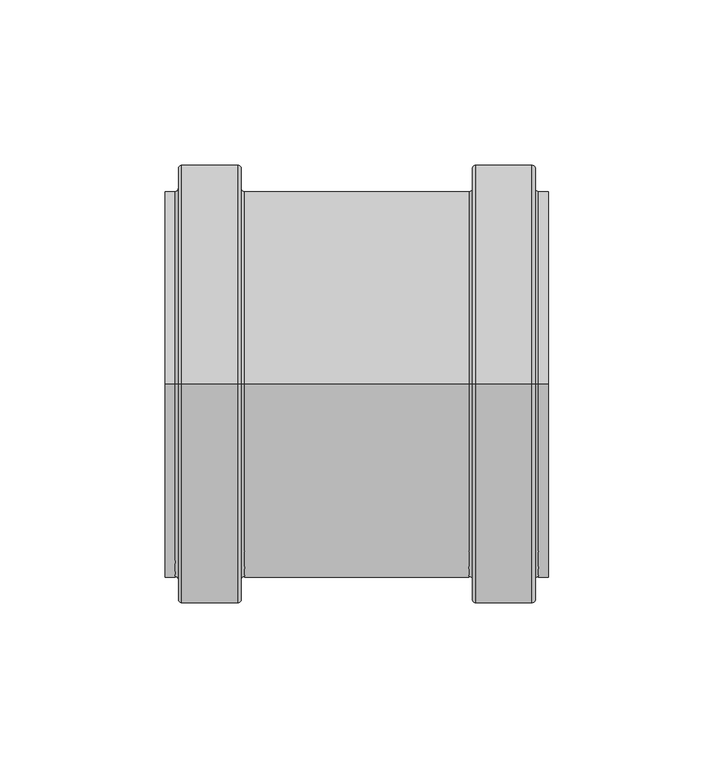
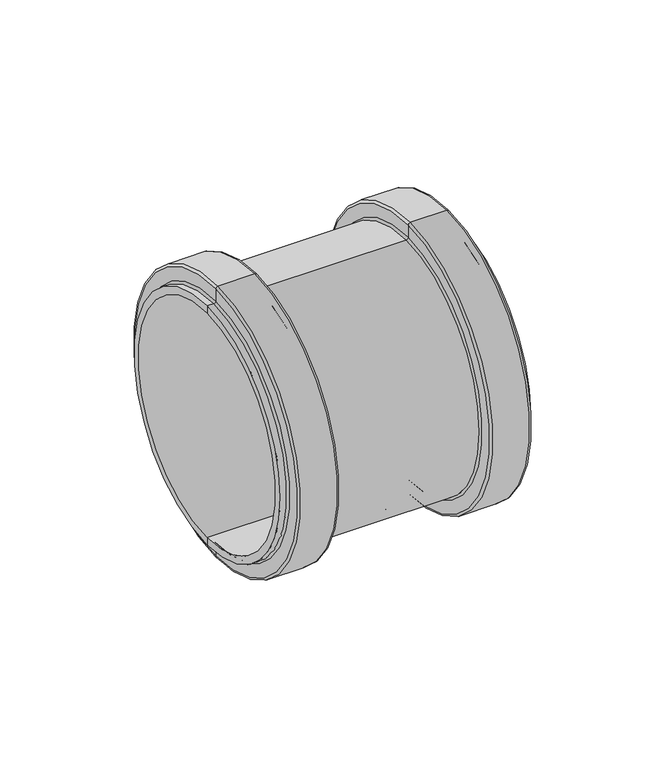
"""IFC4 building model written with IfcOpenShell, lengths in millimetres: pipe fitting geometry, MarleyPlumbingAndDrainage_PipeFitting_dBlueDoubleSocketCoupling_VMD : VMD-110-000-00D - 110mm - Blue."""

from ifc_helpers import new_model, si_unit, point, frame, origin, place, context, project, spatial, polyline, circle_curve, ellipse_curve, trimmed, source, transform, mapped, element, save
from ifc_brep_helpers import plane_surface, cylinder_surface, revolved_surface, advanced_brep


def pipe_fitting_af558869(model_context):
    return source(origin(), model_context, "Body", "AdvancedBrep", [
        advanced_brep(
        [(-48.8253818, 0.0, -58.5), (-48.8253818, 0.0, 58.5), (19.1746182, 0.0, 58.5), (19.1746182, 0.0, -58.5), (43.1746182, 0.0, -55.0), (43.1746182, 0.0, 55.0), (-72.8253818, 0.0, 55.0), (-72.8253818, 0.0, -55.0), (43.1746182, 0.0, -58.5), (43.1746182, 0.0, 58.5), (40.1746182, 0.0, -58.5), (40.1746182, 0.0, 58.5), (39.1746182, 0.0, -59.5), (39.1746182, 0.0, 59.5), (39.1746182, 0.0, -65.5), (39.1746182, 0.0, 65.5), (38.1746182, 0.0, -66.5), (38.1746182, 0.0, 66.5), (21.1746182, 0.0, -66.5), (21.1746182, 0.0, 66.5), (20.1746182, 0.0, -65.5), (20.1746182, 0.0, 65.5), (20.1746182, 0.0, -59.5), (20.1746182, 0.0, 59.5), (-49.8253818, 0.0, -59.5), (-49.8253818, 0.0, 59.5), (-49.8253818, 0.0, -65.5), (-49.8253818, 0.0, 65.5), (-50.8253818, 0.0, -66.5), (-50.8253818, 0.0, 66.5), (-67.8253818, 0.0, -66.5), (-67.8253818, 0.0, 66.5), (-68.8253818, 0.0, -65.5), (-68.8253818, 0.0, 65.5), (-68.8253818, 0.0, -59.5), (-68.8253818, 0.0, 59.5), (-69.8253818, 0.0, -58.5), (-69.8253818, 0.0, 58.5), (-72.8253818, 0.0, -58.5), (-72.8253818, 0.0, 58.5)],
        [
            (0, 1, circle_curve(frame((-48.8253818, 0.0, 0.0), z_axis=(1.0, 0.0, 0.0), x_axis=(0.0, 0.0, 1.0)), 58.5)),
            (1, 2),
            (2, 3, circle_curve(frame((19.1746182, 0.0, 0.0), z_axis=(-1.0, 0.0, 0.0), x_axis=(0.0, 0.0, 1.0)), 58.5)),
            (3, 0),
            (1, 0, circle_curve(frame((-48.8253818, 0.0, 0.0), z_axis=(1.0, 0.0, 0.0), x_axis=(0.0, 0.0, 1.0)), 58.5)),
            (3, 2, circle_curve(frame((19.1746182, 0.0, 0.0), z_axis=(-1.0, 0.0, 0.0), x_axis=(0.0, 0.0, 1.0)), 58.5)),
            (4, 5, circle_curve(frame((43.1746182, 0.0, 0.0), z_axis=(1.0, 0.0, 0.0), x_axis=(0.0, 0.0, 1.0)), 55.0)),
            (5, 6),
            (6, 7, circle_curve(frame((-72.8253818, 0.0, 0.0), z_axis=(-1.0, 0.0, 0.0), x_axis=(0.0, 0.0, 1.0)), 55.0)),
            (7, 4),
            (5, 4, circle_curve(frame((43.1746182, 0.0, 0.0), z_axis=(1.0, 0.0, 0.0), x_axis=(0.0, 0.0, 1.0)), 55.0)),
            (7, 6, circle_curve(frame((-72.8253818, 0.0, 0.0), z_axis=(-1.0, 0.0, 0.0), x_axis=(0.0, 0.0, 1.0)), 55.0)),
            (8, 9, circle_curve(frame((43.1746182, 0.0, 0.0), z_axis=(1.0, 0.0, 0.0), x_axis=(0.0, 0.0, 1.0)), 58.5)),
            (9, 5),
            (4, 8),
            (9, 8, circle_curve(frame((43.1746182, 0.0, 0.0), z_axis=(1.0, 0.0, 0.0), x_axis=(0.0, 0.0, 1.0)), 58.5)),
            (10, 11, circle_curve(frame((40.1746182, 0.0, 0.0), z_axis=(1.0, 0.0, 0.0), x_axis=(0.0, 0.0, 1.0)), 58.5)),
            (11, 9),
            (8, 10),
            (11, 10, circle_curve(frame((40.1746182, 0.0, 0.0), z_axis=(1.0, 0.0, 0.0), x_axis=(0.0, 0.0, 1.0)), 58.5)),
            (12, 13, circle_curve(frame((39.1746182, 0.0, 0.0), z_axis=(1.0, 0.0, 0.0), x_axis=(0.0, 0.0, 1.0)), 59.5)),
            (13, 11, circle_curve(frame((40.1746182, 0.0, 59.5), z_axis=(0.0, -1.0, 0.0), x_axis=(1.0, 0.0, 0.0)), 1.0)),
            (10, 12, circle_curve(frame((40.1746182, 0.0, -59.5), z_axis=(0.0, -1.0, 0.0), x_axis=(1.0, 0.0, 0.0)), 1.0)),
            (13, 12, circle_curve(frame((39.1746182, 0.0, 0.0), z_axis=(1.0, 0.0, 0.0), x_axis=(0.0, 0.0, 1.0)), 59.5)),
            (14, 15, circle_curve(frame((39.1746182, 0.0, 0.0), z_axis=(1.0, 0.0, 0.0), x_axis=(0.0, 0.0, 1.0)), 65.5)),
            (15, 13),
            (12, 14),
            (15, 14, circle_curve(frame((39.1746182, 0.0, 0.0), z_axis=(1.0, 0.0, 0.0), x_axis=(0.0, 0.0, 1.0)), 65.5)),
            (16, 17, circle_curve(frame((38.1746182, 0.0, 0.0), z_axis=(1.0, 0.0, 0.0), x_axis=(0.0, 0.0, 1.0)), 66.5)),
            (17, 15, circle_curve(frame((38.1746182, 0.0, 65.5), z_axis=(0.0, 1.0, 0.0), x_axis=(1.0, 0.0, 0.0)), 1.0)),
            (14, 16, circle_curve(frame((38.1746182, 0.0, -65.5), z_axis=(0.0, 1.0, 0.0), x_axis=(1.0, 0.0, 0.0)), 1.0)),
            (17, 16, circle_curve(frame((38.1746182, 0.0, 0.0), z_axis=(1.0, 0.0, 0.0), x_axis=(0.0, 0.0, 1.0)), 66.5)),
            (18, 19, circle_curve(frame((21.1746182, 0.0, 0.0), z_axis=(1.0, 0.0, 0.0), x_axis=(0.0, 0.0, 1.0)), 66.5)),
            (19, 17),
            (16, 18),
            (19, 18, circle_curve(frame((21.1746182, 0.0, 0.0), z_axis=(1.0, 0.0, 0.0), x_axis=(0.0, 0.0, 1.0)), 66.5)),
            (20, 21, circle_curve(frame((20.1746182, 0.0, 0.0), z_axis=(1.0, 0.0, 0.0), x_axis=(0.0, 0.0, 1.0)), 65.5)),
            (21, 19, circle_curve(frame((21.1746182, 0.0, 65.5), z_axis=(0.0, 1.0, 0.0), x_axis=(1.0, 0.0, 0.0)), 1.0)),
            (18, 20, circle_curve(frame((21.1746182, 0.0, -65.5), z_axis=(0.0, 1.0, 0.0), x_axis=(1.0, 0.0, 0.0)), 1.0)),
            (21, 20, circle_curve(frame((20.1746182, 0.0, 0.0), z_axis=(1.0, 0.0, 0.0), x_axis=(0.0, 0.0, 1.0)), 65.5)),
            (22, 23, circle_curve(frame((20.1746182, 0.0, 0.0), z_axis=(1.0, 0.0, 0.0), x_axis=(0.0, 0.0, 1.0)), 59.5)),
            (23, 21),
            (20, 22),
            (23, 22, circle_curve(frame((20.1746182, 0.0, 0.0), z_axis=(1.0, 0.0, 0.0), x_axis=(0.0, 0.0, 1.0)), 59.5)),
            (2, 23, circle_curve(frame((19.1746182, 0.0, 59.5), z_axis=(0.0, -1.0, 0.0), x_axis=(1.0, 0.0, 0.0)), 1.0)),
            (22, 3, circle_curve(frame((19.1746182, 0.0, -59.5), z_axis=(0.0, -1.0, 0.0), x_axis=(1.0, 0.0, 0.0)), 1.0)),
            (24, 25, circle_curve(frame((-49.8253818, 0.0, 0.0), z_axis=(1.0, 0.0, 0.0), x_axis=(0.0, 0.0, 1.0)), 59.5)),
            (25, 1, circle_curve(frame((-48.8253818, 0.0, 59.5), z_axis=(0.0, -1.0, 0.0), x_axis=(1.0, 0.0, 0.0)), 1.0)),
            (0, 24, circle_curve(frame((-48.8253818, 0.0, -59.5), z_axis=(0.0, -1.0, 0.0), x_axis=(1.0, 0.0, 0.0)), 1.0)),
            (25, 24, circle_curve(frame((-49.8253818, 0.0, 0.0), z_axis=(1.0, 0.0, 0.0), x_axis=(0.0, 0.0, 1.0)), 59.5)),
            (26, 27, circle_curve(frame((-49.8253818, 0.0, 0.0), z_axis=(1.0, 0.0, 0.0), x_axis=(0.0, 0.0, 1.0)), 65.5)),
            (27, 25),
            (24, 26),
            (27, 26, circle_curve(frame((-49.8253818, 0.0, 0.0), z_axis=(1.0, 0.0, 0.0), x_axis=(0.0, 0.0, 1.0)), 65.5)),
            (28, 29, circle_curve(frame((-50.8253818, 0.0, 0.0), z_axis=(1.0, 0.0, 0.0), x_axis=(0.0, 0.0, 1.0)), 66.5)),
            (29, 27, circle_curve(frame((-50.8253818, 0.0, 65.5), z_axis=(0.0, 1.0, 0.0), x_axis=(1.0, 0.0, 0.0)), 1.0)),
            (26, 28, circle_curve(frame((-50.8253818, 0.0, -65.5), z_axis=(0.0, 1.0, 0.0), x_axis=(1.0, 0.0, 0.0)), 1.0)),
            (29, 28, circle_curve(frame((-50.8253818, 0.0, 0.0), z_axis=(1.0, 0.0, 0.0), x_axis=(0.0, 0.0, 1.0)), 66.5)),
            (30, 31, circle_curve(frame((-67.8253818, 0.0, 0.0), z_axis=(1.0, 0.0, 0.0), x_axis=(0.0, 0.0, 1.0)), 66.5)),
            (31, 29),
            (28, 30),
            (31, 30, circle_curve(frame((-67.8253818, 0.0, 0.0), z_axis=(1.0, 0.0, 0.0), x_axis=(0.0, 0.0, 1.0)), 66.5)),
            (32, 33, circle_curve(frame((-68.8253818, 0.0, 0.0), z_axis=(1.0, 0.0, 0.0), x_axis=(0.0, 0.0, 1.0)), 65.5)),
            (33, 31, circle_curve(frame((-67.8253818, 0.0, 65.5), z_axis=(0.0, 1.0, 0.0), x_axis=(1.0, 0.0, 0.0)), 1.0)),
            (30, 32, circle_curve(frame((-67.8253818, 0.0, -65.5), z_axis=(0.0, 1.0, 0.0), x_axis=(1.0, 0.0, 0.0)), 1.0)),
            (33, 32, circle_curve(frame((-68.8253818, 0.0, 0.0), z_axis=(1.0, 0.0, 0.0), x_axis=(0.0, 0.0, 1.0)), 65.5)),
            (34, 35, circle_curve(frame((-68.8253818, 0.0, 0.0), z_axis=(1.0, 0.0, 0.0), x_axis=(0.0, 0.0, 1.0)), 59.5)),
            (35, 33),
            (32, 34),
            (35, 34, circle_curve(frame((-68.8253818, 0.0, 0.0), z_axis=(1.0, 0.0, 0.0), x_axis=(0.0, 0.0, 1.0)), 59.5)),
            (36, 37, circle_curve(frame((-69.8253818, 0.0, 0.0), z_axis=(1.0, 0.0, 0.0), x_axis=(0.0, 0.0, 1.0)), 58.5)),
            (37, 35, circle_curve(frame((-69.8253818, 0.0, 59.5), z_axis=(0.0, -1.0, 0.0), x_axis=(1.0, 0.0, 0.0)), 1.0)),
            (34, 36, circle_curve(frame((-69.8253818, 0.0, -59.5), z_axis=(0.0, -1.0, 0.0), x_axis=(1.0, 0.0, 0.0)), 1.0)),
            (37, 36, circle_curve(frame((-69.8253818, 0.0, 0.0), z_axis=(1.0, 0.0, 0.0), x_axis=(0.0, 0.0, 1.0)), 58.5)),
            (38, 39, circle_curve(frame((-72.8253818, 0.0, 0.0), z_axis=(1.0, 0.0, 0.0), x_axis=(0.0, 0.0, 1.0)), 58.5)),
            (39, 37),
            (36, 38),
            (39, 38, circle_curve(frame((-72.8253818, 0.0, 0.0), z_axis=(1.0, 0.0, 0.0), x_axis=(0.0, 0.0, 1.0)), 58.5)),
            (6, 39),
            (38, 7),
        ],
        [
            cylinder_surface(frame((-1210.7325039, 0.0, 0.0), z_axis=(-1.0, 0.0, 0.0), x_axis=(0.0, 0.0, 1.0)), 58.5),
            revolved_surface(polyline([(-72.82538180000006, 0.0, 55.0), (43.17461819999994, 0.0, 55.0)]), (-1210.7325039, 0.0, 0.0), (-1.0, 0.0, 0.0)),
            plane_surface(frame((43.1746182, 0.0, 0.0), z_axis=(1.0, 0.0, 0.0), x_axis=(0.0, 0.0, 1.0))),
            revolved_surface(trimmed(ellipse_curve(frame((40.1746182, 0.0, 59.5), z_axis=(0.0, 1.0, 0.0), x_axis=(1.0, 0.0, 0.0)), 1.0, 1.0), [point((40.1746182, 0.0, 58.5))], [point((39.1746182, 0.0, 59.5))], True, "CARTESIAN"), (-1210.7325039, 0.0, 0.0), (-1.0, 0.0, 0.0)),
            plane_surface(frame((39.1746182, 0.0, 0.0), z_axis=(1.0, 0.0, 0.0), x_axis=(0.0, 0.0, 1.0))),
            revolved_surface(trimmed(ellipse_curve(frame((38.1746182, 0.0, 65.5), z_axis=(0.0, -1.0, 0.0), x_axis=(1.0, 0.0, 0.0)), 1.0, 1.0), [point((39.1746182, 0.0, 65.5))], [point((38.1746182, 0.0, 66.5))], True, "CARTESIAN"), (-1210.7325039, 0.0, 0.0), (-1.0, 0.0, 0.0)),
            cylinder_surface(frame((-1210.7325039, 0.0, 0.0), z_axis=(-1.0, 0.0, 0.0), x_axis=(0.0, 0.0, 1.0)), 66.5),
            revolved_surface(trimmed(ellipse_curve(frame((21.1746182, 0.0, 65.5), z_axis=(0.0, -1.0, 0.0), x_axis=(1.0, 0.0, 0.0)), 1.0, 1.0), [point((21.1746182, 0.0, 66.5))], [point((20.1746182, 0.0, 65.5))], True, "CARTESIAN"), (-1210.7325039, 0.0, 0.0), (-1.0, 0.0, 0.0)),
            plane_surface(frame((20.1746182, 0.0, 0.0), z_axis=(-1.0, 0.0, 0.0), x_axis=(0.0, 0.0, 1.0))),
            revolved_surface(trimmed(ellipse_curve(frame((19.1746182, 0.0, 59.5), z_axis=(0.0, 1.0, 0.0), x_axis=(1.0, 0.0, 0.0)), 1.0, 1.0), [point((20.1746182, 0.0, 59.5))], [point((19.1746182, 0.0, 58.5))], True, "CARTESIAN"), (-1210.7325039, 0.0, 0.0), (-1.0, 0.0, 0.0)),
            revolved_surface(trimmed(ellipse_curve(frame((-48.8253818, 0.0, 59.5), z_axis=(0.0, 1.0, 0.0), x_axis=(1.0, 0.0, 0.0)), 1.0, 1.0), [point((-48.8253818, 0.0, 58.5))], [point((-49.8253818, 0.0, 59.5))], True, "CARTESIAN"), (-1210.7325039, 0.0, 0.0), (-1.0, 0.0, 0.0)),
            plane_surface(frame((-49.8253818, 0.0, 0.0), z_axis=(1.0, 0.0, 0.0), x_axis=(0.0, 0.0, 1.0))),
            revolved_surface(trimmed(ellipse_curve(frame((-50.8253818, 0.0, 65.5), z_axis=(0.0, -1.0, 0.0), x_axis=(1.0, 0.0, 0.0)), 1.0, 1.0), [point((-49.8253818, 0.0, 65.5))], [point((-50.8253818, 0.0, 66.5))], True, "CARTESIAN"), (-1210.7325039, 0.0, 0.0), (-1.0, 0.0, 0.0)),
            revolved_surface(trimmed(ellipse_curve(frame((-67.8253818, 0.0, 65.5), z_axis=(0.0, -1.0, 0.0), x_axis=(1.0, 0.0, 0.0)), 1.0, 1.0), [point((-67.8253818, 0.0, 66.5))], [point((-68.8253818, 0.0, 65.5))], True, "CARTESIAN"), (-1210.7325039, 0.0, 0.0), (-1.0, 0.0, 0.0)),
            plane_surface(frame((-68.8253818, 0.0, 0.0), z_axis=(-1.0, 0.0, 0.0), x_axis=(0.0, 0.0, 1.0))),
            revolved_surface(trimmed(ellipse_curve(frame((-69.8253818, 0.0, 59.5), z_axis=(0.0, 1.0, 0.0), x_axis=(1.0, 0.0, 0.0)), 1.0, 1.0), [point((-68.8253818, 0.0, 59.5))], [point((-69.8253818, 0.0, 58.5))], True, "CARTESIAN"), (-1210.7325039, 0.0, 0.0), (-1.0, 0.0, 0.0)),
            plane_surface(frame((-72.8253818, 0.0, 0.0), z_axis=(-1.0, 0.0, 0.0), x_axis=(0.0, 0.0, 1.0))),
        ],
        [
            (0, [[1, 2, 3, 4]]),
            (0, [[5, -4, 6, -2]]),
            (1, [[7, 8, 9, 10]]),
            (1, [[11, -10, 12, -8]]),
            (2, [[13, 14, -7, 15]]),
            (2, [[16, -15, -11, -14]]),
            (0, [[17, 18, -13, 19]]),
            (0, [[20, -19, -16, -18]]),
            (3, [[21, 22, -17, 23]]),
            (3, [[24, -23, -20, -22]]),
            (4, [[25, 26, -21, 27]]),
            (4, [[28, -27, -24, -26]]),
            (5, [[29, 30, -25, 31]]),
            (5, [[32, -31, -28, -30]]),
            (6, [[33, 34, -29, 35]]),
            (6, [[36, -35, -32, -34]]),
            (7, [[37, 38, -33, 39]]),
            (7, [[40, -39, -36, -38]]),
            (8, [[41, 42, -37, 43]]),
            (8, [[44, -43, -40, -42]]),
            (9, [[-3, 45, -41, 46]]),
            (9, [[-6, -46, -44, -45]]),
            (10, [[47, 48, -1, 49]]),
            (10, [[50, -49, -5, -48]]),
            (11, [[51, 52, -47, 53]]),
            (11, [[54, -53, -50, -52]]),
            (12, [[55, 56, -51, 57]]),
            (12, [[58, -57, -54, -56]]),
            (6, [[59, 60, -55, 61]]),
            (6, [[62, -61, -58, -60]]),
            (13, [[63, 64, -59, 65]]),
            (13, [[66, -65, -62, -64]]),
            (14, [[67, 68, -63, 69]]),
            (14, [[70, -69, -66, -68]]),
            (15, [[71, 72, -67, 73]]),
            (15, [[74, -73, -70, -72]]),
            (0, [[75, 76, -71, 77]]),
            (0, [[78, -77, -74, -76]]),
            (16, [[-9, 79, -75, 80]]),
            (16, [[-12, -80, -78, -79]]),
        ],
    ),
        advanced_brep(
        [(-12.1587152, 51.0, 0.0), (-12.1587152, -51.0, 0.0), (-12.1587152, -55.0, 0.0), (-12.1587152, 55.0, 0.0), (-13.4920485, 51.0, 0.0), (-13.4920485, -51.0, 0.0), (-13.4920485, 55.0, 0.0), (-13.4920485, -55.0, 0.0)],
        [
            (0, 1, circle_curve(frame((-12.1587152, 0.0, 0.0), z_axis=(-1.0, 0.0, 0.0), x_axis=(0.0, -1.0, 0.0)), 51.0)),
            (1, 2),
            (2, 3, circle_curve(frame((-12.1587152, 0.0, 0.0), z_axis=(1.0, 0.0, 0.0), x_axis=(0.0, -1.0, 0.0)), 55.0)),
            (3, 0),
            (1, 0, circle_curve(frame((-12.1587152, 0.0, 0.0), z_axis=(-1.0, 0.0, 0.0), x_axis=(0.0, -1.0, 0.0)), 51.0)),
            (3, 2, circle_curve(frame((-12.1587152, 0.0, 0.0), z_axis=(1.0, 0.0, 0.0), x_axis=(0.0, -1.0, 0.0)), 55.0)),
            (4, 5, circle_curve(frame((-13.4920485, 0.0, 0.0), z_axis=(-1.0, 0.0, 0.0), x_axis=(0.0, -1.0, 0.0)), 51.0)),
            (5, 1),
            (0, 4),
            (5, 4, circle_curve(frame((-13.4920485, 0.0, 0.0), z_axis=(-1.0, 0.0, 0.0), x_axis=(0.0, -1.0, 0.0)), 51.0)),
            (6, 7, circle_curve(frame((-13.4920485, 0.0, 0.0), z_axis=(-1.0, 0.0, 0.0), x_axis=(0.0, -1.0, 0.0)), 55.0)),
            (7, 5),
            (4, 6),
            (7, 6, circle_curve(frame((-13.4920485, 0.0, 0.0), z_axis=(-1.0, 0.0, 0.0), x_axis=(0.0, -1.0, 0.0)), 55.0)),
            (2, 7),
            (6, 3),
        ],
        [
            plane_surface(frame((-12.1587152, 0.0, 0.0), z_axis=(1.0, 0.0, 0.0), x_axis=(0.0, -1.0, 0.0))),
            revolved_surface(polyline([(-12.158715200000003, -51.0, 0.0), (-13.492048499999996, -51.0, 0.0)]), (-137.8253818, 0.0, 0.0), (1.0, 0.0, 0.0)),
            plane_surface(frame((-13.4920485, 0.0, 0.0), z_axis=(-1.0, 0.0, 0.0), x_axis=(0.0, -1.0, 0.0))),
            cylinder_surface(frame((-137.8253818, 0.0, 0.0), z_axis=(1.0, 0.0, 0.0), x_axis=(0.0, -1.0, 0.0)), 55.0),
        ],
        [
            (0, [[1, 2, 3, 4]]),
            (0, [[5, -4, 6, -2]]),
            (1, [[7, 8, -1, 9]]),
            (1, [[10, -9, -5, -8]]),
            (2, [[11, 12, -7, 13]]),
            (2, [[14, -13, -10, -12]]),
            (3, [[-3, 15, -11, 16]]),
            (3, [[-6, -16, -14, -15]]),
        ],
    ),
    ])


if __name__ == "__main__":
    model = new_model("IFC4")
    model_context = context("Model", 3, world=origin())
    ifc_project = project(units=[si_unit("LENGTHUNIT", "METRE", prefix="MILLI")], contexts=[model_context])
    site = spatial("IfcSite", under=ifc_project)
    building = spatial("IfcBuilding", under=site)
    placement = place(None, origin())
    pipe_fitting_shape = pipe_fitting_af558869(model_context)
    element("IfcPipeFitting", 1, ObjectType="MarleyPlumbingAndDrainage_PipeFitting_dBlueDoubleSocketCoupling_VMD : VMD-110-000-00D - 110mm - Blue", at=placement, inside=building, context=model_context, shape_type="MappedRepresentation", body=[
        mapped(pipe_fitting_shape, transform((0.0, 0.0, 0.0), x_axis=(1.0, 0.0, 0.0), y_axis=(0.0, 1.0, 0.0), z_axis=(0.0, 0.0, 1.0))),
    ])
    save(model, "model.ifc")
